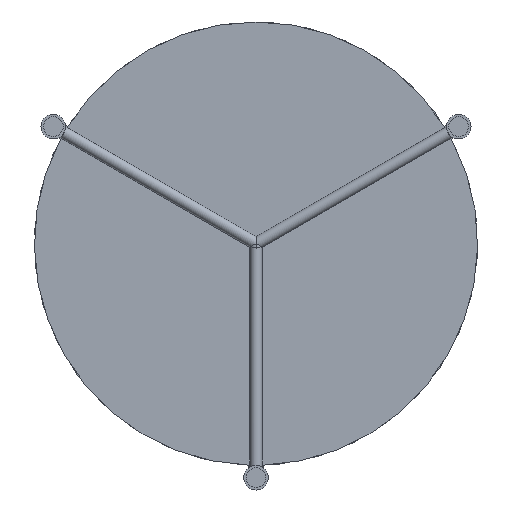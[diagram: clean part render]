
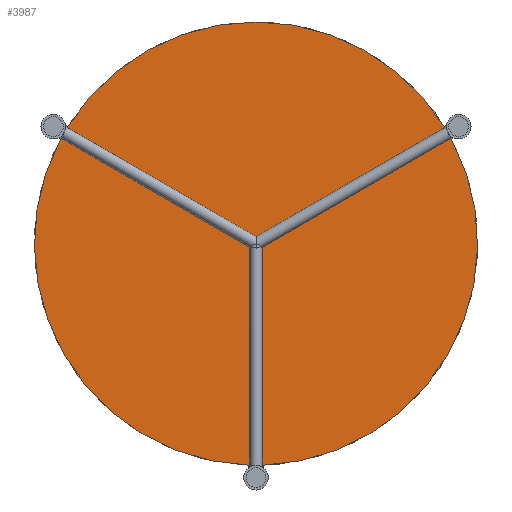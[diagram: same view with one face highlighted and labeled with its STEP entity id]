
A CAD part, front view. The second image highlights one B-rep face of the part: STEP entity #3987.
In plain terms, the highlighted planar face has unit normal (0, -1, 0).
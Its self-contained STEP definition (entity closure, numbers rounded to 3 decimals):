
#20 = CARTESIAN_POINT ( 'NONE',  ( 158.798, 299., 84.754 ) ) ;
#27 = VERTEX_POINT ( 'NONE', #2790 ) ;
#79 = AXIS2_PLACEMENT_3D ( 'NONE', #4288, #3858, #2115 ) ;
#84 = CARTESIAN_POINT ( 'NONE',  ( -158.798, 299., 84.754 ) ) ;
#135 = CIRCLE ( 'NONE', #492, 180. ) ;
#136 = EDGE_CURVE ( 'NONE', #928, #2989, #2270, .T. ) ;
#137 = VERTEX_POINT ( 'NONE', #2984 ) ;
#273 = CIRCLE ( 'NONE', #2852, 180. ) ;
#306 = EDGE_CURVE ( 'NONE', #4443, #2808, #4194, .T. ) ;
#383 = DIRECTION ( 'NONE',  ( 0., 0., -1. ) ) ;
#404 = DIRECTION ( 'NONE',  ( 0., -1., 0. ) ) ;
#448 = ORIENTED_EDGE ( 'NONE', *, *, #2773, .T. ) ;
#468 = EDGE_CURVE ( 'NONE', #1443, #27, #2206, .T. ) ;
#477 = CARTESIAN_POINT ( 'NONE',  ( 167.605, 299., 89.839 ) ) ;
#492 = AXIS2_PLACEMENT_3D ( 'NONE', #2197, #3548, #1802 ) ;
#624 = AXIS2_PLACEMENT_3D ( 'NONE', #3290, #404, #1865 ) ;
#744 = EDGE_CURVE ( 'NONE', #2989, #4362, #2844, .T. ) ;
#748 = CARTESIAN_POINT ( 'NONE',  ( -158.798, 299., 84.754 ) ) ;
#805 = CARTESIAN_POINT ( 'NONE',  ( -6., 299., -190.07 ) ) ;
#877 = VECTOR ( 'NONE', #3928, 1000. ) ;
#902 = DIRECTION ( 'NONE',  ( 0., -1., 0. ) ) ;
#928 = VERTEX_POINT ( 'NONE', #4351 ) ;
#944 = EDGE_CURVE ( 'NONE', #27, #3140, #4273, .T. ) ;
#1048 = ORIENTED_EDGE ( 'NONE', *, *, #306, .T. ) ;
#1097 = CARTESIAN_POINT ( 'NONE',  ( -161.605, 299., 100.231 ) ) ;
#1099 = VECTOR ( 'NONE', #1811, 1000. ) ;
#1175 = DIRECTION ( 'NONE',  ( 0., 0., 1. ) ) ;
#1187 = CARTESIAN_POINT ( 'NONE',  ( 164.605, 299., 95.035 ) ) ;
#1247 = ORIENTED_EDGE ( 'NONE', *, *, #1902, .T. ) ;
#1248 = CARTESIAN_POINT ( 'NONE',  ( 0., 299., 0. ) ) ;
#1250 = CARTESIAN_POINT ( 'NONE',  ( -152.798, 299., 95.146 ) ) ;
#1277 = ORIENTED_EDGE ( 'NONE', *, *, #4127, .T. ) ;
#1409 = ORIENTED_EDGE ( 'NONE', *, *, #468, .T. ) ;
#1443 = VERTEX_POINT ( 'NONE', #20 ) ;
#1469 = EDGE_CURVE ( 'NONE', #1487, #3092, #3081, .T. ) ;
#1487 = VERTEX_POINT ( 'NONE', #3883 ) ;
#1538 = VECTOR ( 'NONE', #2961, 1000. ) ;
#1598 = VERTEX_POINT ( 'NONE', #2977 ) ;
#1637 = DIRECTION ( 'NONE',  ( 0., -1., 0. ) ) ;
#1721 = VERTEX_POINT ( 'NONE', #3372 ) ;
#1757 = ORIENTED_EDGE ( 'NONE', *, *, #2463, .T. ) ;
#1802 = DIRECTION ( 'NONE',  ( 0., 0., -1. ) ) ;
#1811 = DIRECTION ( 'NONE',  ( 0.866, 0., -0.5 ) ) ;
#1847 = PLANE ( 'NONE',  #624 ) ;
#1865 = DIRECTION ( 'NONE',  ( 0., 0., -1. ) ) ;
#1902 = EDGE_CURVE ( 'NONE', #3092, #1721, #1947, .T. ) ;
#1914 = DIRECTION ( 'NONE',  ( 0., 0., -1. ) ) ;
#1947 = LINE ( 'NONE', #2299, #4202 ) ;
#2115 = DIRECTION ( 'NONE',  ( 0., 0., -1. ) ) ;
#2149 = ORIENTED_EDGE ( 'NONE', *, *, #4096, .T. ) ;
#2197 = CARTESIAN_POINT ( 'NONE',  ( 0., 299., 0. ) ) ;
#2198 = CARTESIAN_POINT ( 'NONE',  ( 152.798, 299., 95.146 ) ) ;
#2204 = CARTESIAN_POINT ( 'NONE',  ( -160.677, 299., 85.839 ) ) ;
#2206 = LINE ( 'NONE', #477, #1538 ) ;
#2270 = CIRCLE ( 'NONE', #2699, 180. ) ;
#2299 = CARTESIAN_POINT ( 'NONE',  ( 6., 299., -179.9 ) ) ;
#2349 = VECTOR ( 'NONE', #2928, 1000. ) ;
#2435 = ORIENTED_EDGE ( 'NONE', *, *, #2657, .T. ) ;
#2463 = EDGE_CURVE ( 'NONE', #137, #928, #3905, .T. ) ;
#2471 = EDGE_LOOP ( 'NONE', ( #4367, #2435, #1048, #2149, #4174, #3263, #1247, #1277, #1409, #4549, #448, #1757, #3956 ) ) ;
#2541 = CARTESIAN_POINT ( 'NONE',  ( -154.677, 299., 96.231 ) ) ;
#2573 = CIRCLE ( 'NONE', #3308, 10. ) ;
#2583 = DIRECTION ( 'NONE',  ( 0., 0., -1. ) ) ;
#2657 = EDGE_CURVE ( 'NONE', #4362, #4443, #2573, .T. ) ;
#2699 = AXIS2_PLACEMENT_3D ( 'NONE', #3325, #2885, #4277 ) ;
#2773 = EDGE_CURVE ( 'NONE', #3140, #137, #3231, .T. ) ;
#2790 = CARTESIAN_POINT ( 'NONE',  ( 160.677, 299., 85.839 ) ) ;
#2808 = VERTEX_POINT ( 'NONE', #84 ) ;
#2831 = EDGE_CURVE ( 'NONE', #1598, #1487, #3993, .T. ) ;
#2844 = LINE ( 'NONE', #1097, #877 ) ;
#2852 = AXIS2_PLACEMENT_3D ( 'NONE', #1248, #902, #1914 ) ;
#2878 = AXIS2_PLACEMENT_3D ( 'NONE', #2958, #1637, #4100 ) ;
#2885 = DIRECTION ( 'NONE',  ( 0., -1., 0. ) ) ;
#2928 = DIRECTION ( 'NONE',  ( -0.866, 0., -0.5 ) ) ;
#2958 = CARTESIAN_POINT ( 'NONE',  ( 0., 299., 0. ) ) ;
#2961 = DIRECTION ( 'NONE',  ( 0.866, 0., 0.5 ) ) ;
#2977 = CARTESIAN_POINT ( 'NONE',  ( -6., 299., -179.9 ) ) ;
#2984 = CARTESIAN_POINT ( 'NONE',  ( 152.798, 299., 95.146 ) ) ;
#2989 = VERTEX_POINT ( 'NONE', #1250 ) ;
#3081 = CIRCLE ( 'NONE', #79, 10. ) ;
#3092 = VERTEX_POINT ( 'NONE', #3891 ) ;
#3140 = VERTEX_POINT ( 'NONE', #3965 ) ;
#3231 = LINE ( 'NONE', #2198, #2349 ) ;
#3263 = ORIENTED_EDGE ( 'NONE', *, *, #1469, .T. ) ;
#3290 = CARTESIAN_POINT ( 'NONE',  ( 0., 299., 0. ) ) ;
#3308 = AXIS2_PLACEMENT_3D ( 'NONE', #3529, #3826, #383 ) ;
#3317 = DIRECTION ( 'NONE',  ( 0., 1., 0. ) ) ;
#3325 = CARTESIAN_POINT ( 'NONE',  ( 0., 299., 0. ) ) ;
#3372 = CARTESIAN_POINT ( 'NONE',  ( 6., 299., -179.9 ) ) ;
#3503 = VECTOR ( 'NONE', #3611, 1000. ) ;
#3529 = CARTESIAN_POINT ( 'NONE',  ( -164.605, 299., 95.035 ) ) ;
#3548 = DIRECTION ( 'NONE',  ( 0., -1., 0. ) ) ;
#3610 = FACE_OUTER_BOUND ( 'NONE', #2471, .T. ) ;
#3611 = DIRECTION ( 'NONE',  ( 0., 0., -1. ) ) ;
#3826 = DIRECTION ( 'NONE',  ( 0., 1., 0. ) ) ;
#3858 = DIRECTION ( 'NONE',  ( 0., 1., 0. ) ) ;
#3883 = CARTESIAN_POINT ( 'NONE',  ( -6., 299., -182.07 ) ) ;
#3891 = CARTESIAN_POINT ( 'NONE',  ( 6., 299., -182.07 ) ) ;
#3905 = CIRCLE ( 'NONE', #2878, 180. ) ;
#3928 = DIRECTION ( 'NONE',  ( -0.866, 0., 0.5 ) ) ;
#3956 = ORIENTED_EDGE ( 'NONE', *, *, #136, .T. ) ;
#3965 = CARTESIAN_POINT ( 'NONE',  ( 154.677, 299., 96.231 ) ) ;
#3987 = ADVANCED_FACE ( 'NONE', ( #3610 ), #1847, .T. ) ;
#3993 = LINE ( 'NONE', #805, #3503 ) ;
#4096 = EDGE_CURVE ( 'NONE', #2808, #1598, #135, .T. ) ;
#4100 = DIRECTION ( 'NONE',  ( 0., 0., -1. ) ) ;
#4127 = EDGE_CURVE ( 'NONE', #1721, #1443, #273, .T. ) ;
#4174 = ORIENTED_EDGE ( 'NONE', *, *, #2831, .T. ) ;
#4194 = LINE ( 'NONE', #748, #1099 ) ;
#4195 = AXIS2_PLACEMENT_3D ( 'NONE', #1187, #3317, #2583 ) ;
#4202 = VECTOR ( 'NONE', #1175, 1000. ) ;
#4273 = CIRCLE ( 'NONE', #4195, 10. ) ;
#4277 = DIRECTION ( 'NONE',  ( 0., 0., -1. ) ) ;
#4288 = CARTESIAN_POINT ( 'NONE',  ( 0., 299., -190.07 ) ) ;
#4351 = CARTESIAN_POINT ( 'NONE',  ( 0., 299., 180. ) ) ;
#4362 = VERTEX_POINT ( 'NONE', #2541 ) ;
#4367 = ORIENTED_EDGE ( 'NONE', *, *, #744, .T. ) ;
#4443 = VERTEX_POINT ( 'NONE', #2204 ) ;
#4549 = ORIENTED_EDGE ( 'NONE', *, *, #944, .T. ) ;
